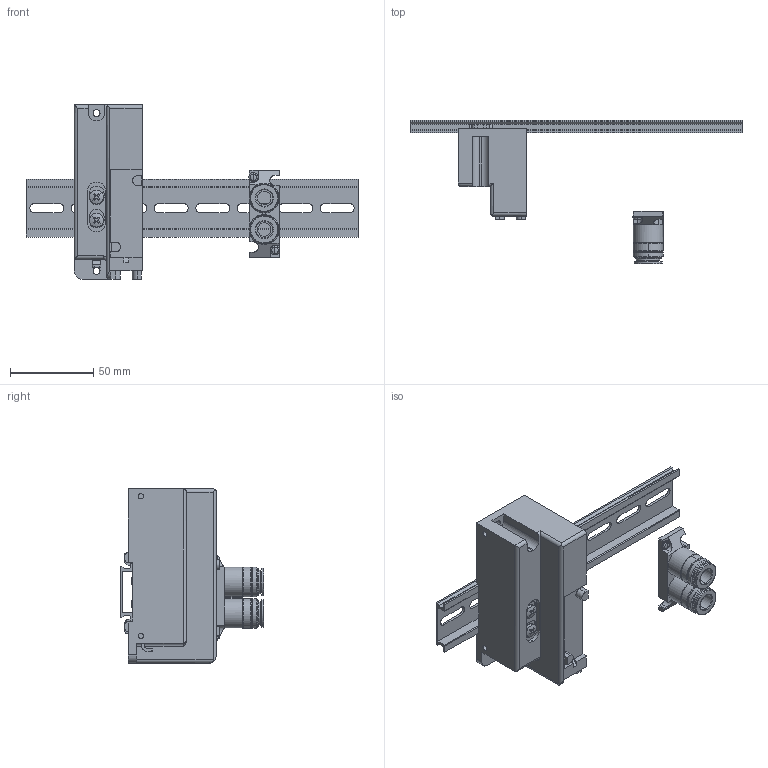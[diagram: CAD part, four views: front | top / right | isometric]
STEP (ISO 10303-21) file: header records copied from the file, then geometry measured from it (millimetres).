
FILE_DESCRIPTION( (''), '2;1');
FILE_NAME ('CVICAD02.4348.F15M4XN-JR-DR_21419.stp','2021-07-12T19:12:29',(''),(''),'spGate 12.6.6','','');
FILE_SCHEMA (('AUTOMOTIVE_DESIGN'));
Length unit declared in the file: millimetre
Products named in the file (20): Assembly; CVICAD02-asm1; CVICAD02-asm2; CVICAD02-prt14; CVICAD02-prt15; CVICAD02-prt16
Assembly tree (34 placements, depth 3):
  Assembly
    (unnamed)  x4
    (unnamed)
    (unnamed)  x3
    CVICAD02-asm1
      (unnamed)
      (unnamed)
      (unnamed)
      (unnamed)
      (unnamed)
      (unnamed)
      (unnamed)
    CVICAD02-asm2  x2
      (unnamed)
      (unnamed)
      (unnamed)
      (unnamed)
      (unnamed)
      (unnamed)
      (unnamed)
    (unnamed)
    (unnamed)  x4
    (unnamed)
    CVICAD02-prt14
    CVICAD02-prt15
    CVICAD02-prt16
Bounding box: 200 x 86.6 x 105 mm (x, y, z)
Volume: 196608.4 mm3; surface area: 51957.4 mm2
Topology: 3 solids, 3 shells, 520 faces, 1372 edges, 891 vertices
Faces by surface type: plane 312, cylinder 151, bspline 49, sphere 8
Entity records: 27944 total; most frequent: CARTESIAN_POINT 3727, ORIENTED_EDGE 2736, DIRECTION 2683, COLOUR_RGB 1891, PRESENTATION_STYLE_ASSIGNMENT 1891, STYLED_ITEM 1891, EDGE_CURVE 1368, DRAUGHTING_PRE_DEFINED_CURVE_FONT 1368
